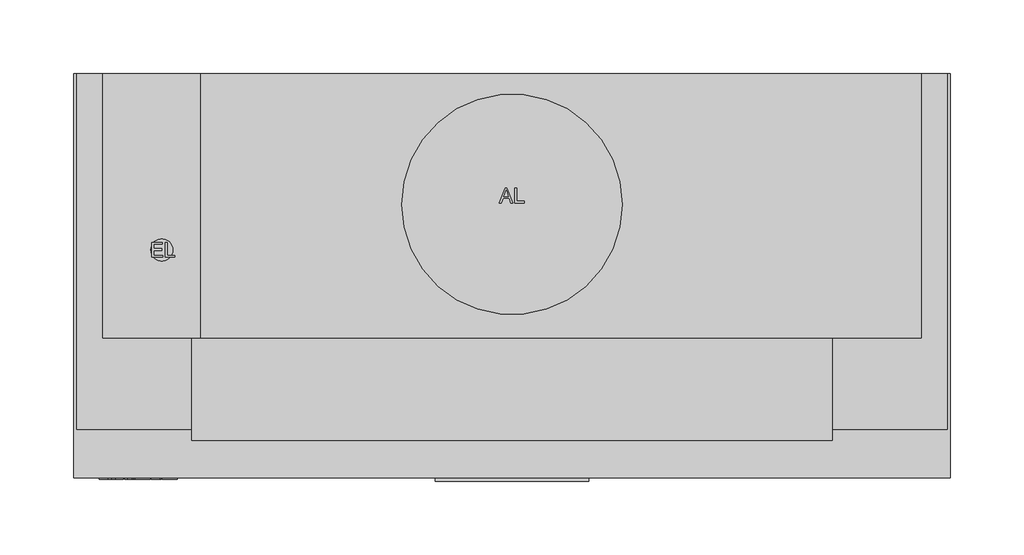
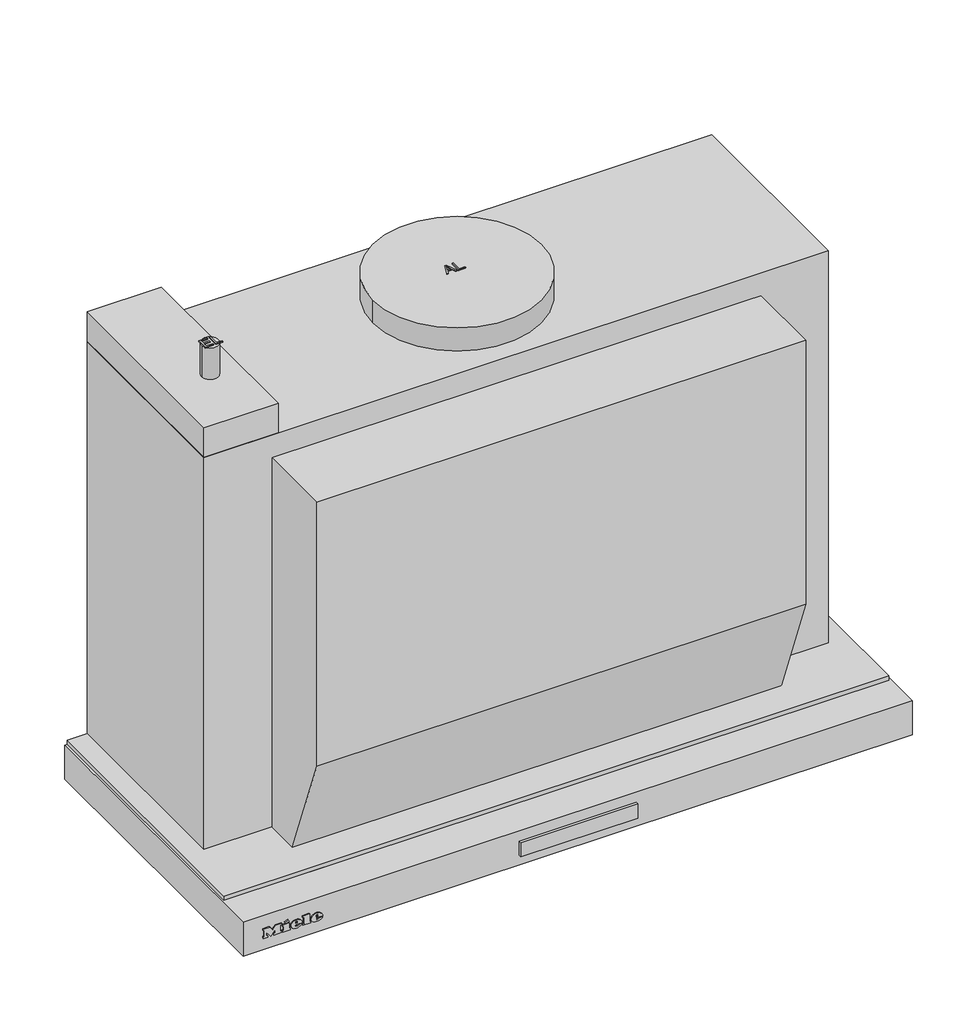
# Not in any storey: 1 proxy.
"""IFC4 building model written with IfcOpenShell, lengths in millimetres."""

import ifcopenshell
import ifcopenshell.guid

model = None  # the IFC model being written
_history = None  # IfcOwnerHistory: only IFC2X3 demands one
_inside = {}  # id of a spatial element -> (the spatial element, [elements in it])
_under = {}  # id of a project, library or spatial element -> (it, [spatial elements below it])
_declared = {}  # id of a project -> (the project, [libraries it declares])
_typed = {}  # id of a type object -> (the type object, [elements of that type])
_made_of = {}  # id of a material, layer set ... -> (it, [elements and type objects made of it])


def new_model(schema):
    """Start an empty IFC model of exactly this schema.

    Asked for "IFC4X3", IfcOpenShell would pick the latest addendum, in which some entities
    have other attributes; the version numbers below select the first issue.
    IFC2X3 requires an IfcOwnerHistory on every rooted entity: one is made here for all.
    """
    global model, _history
    if schema == "IFC4X3":
        model = ifcopenshell.file(schema_version=(4, 3, 0, 0))
    else:
        model = ifcopenshell.file(schema=schema)
    _inside.clear()
    _under.clear()
    _declared.clear()
    _typed.clear()
    _made_of.clear()
    _history = None
    if model.schema == "IFC2X3":
        org = make("IfcOrganization", Name="unknown")
        user = make(
            "IfcPersonAndOrganization",
            ThePerson=make("IfcPerson", FamilyName="unknown"),
            TheOrganization=org,
        )
        app = make(
            "IfcApplication",
            ApplicationDeveloper=org,
            Version="unknown",
            ApplicationFullName="unknown",
            ApplicationIdentifier="unknown",
        )
        _history = make(
            "IfcOwnerHistory",
            OwningUser=user,
            OwningApplication=app,
            ChangeAction="ADDED",
            CreationDate=0,
        )
    return model


def make(cls, **values):
    """One entity of the class cls with the attributes given. An attribute that is None is left unset."""
    return model.create_entity(
        cls, **{name: value for name, value in values.items() if value is not None}
    )


def rooted(cls, **values):
    """An entity with a GlobalId (a new one), such as an element, a storey or a relation."""
    return make(cls, GlobalId=ifcopenshell.guid.new(), OwnerHistory=_history, **values)


def si_unit(unit_type, name, prefix=None):
    """IfcSIUnit, for example si_unit("LENGTHUNIT", "METRE", prefix="MILLI")."""
    return make("IfcSIUnit", UnitType=unit_type, Prefix=prefix, Name=name)


def assignment(units):
    """IfcUnitAssignment: the units of a project."""
    return None if units is None else make("IfcUnitAssignment", Units=units)


def point(xyz):
    """IfcCartesianPoint."""
    return None if xyz is None else make("IfcCartesianPoint", Coordinates=xyz)


def direction(xyz):
    """IfcDirection."""
    return None if xyz is None else make("IfcDirection", DirectionRatios=xyz)


def frame(location, z_axis=None, x_axis=None):
    """IfcAxis2Placement3D, a coordinate frame: its origin and axes. An axis left out is left unset."""
    return make(
        "IfcAxis2Placement3D",
        Location=point(location),
        Axis=direction(z_axis),
        RefDirection=direction(x_axis),
    )


def frame_2d(location, x_axis=None):
    """IfcAxis2Placement2D, a coordinate frame in the plane: its origin and x axis."""
    return make(
        "IfcAxis2Placement2D", Location=point(location), RefDirection=direction(x_axis)
    )


def origin():
    """The frame at (0, 0, 0) with its axes left unset."""
    return frame((0.0, 0.0, 0.0))


def origin_with_axes():
    """The frame at (0, 0, 0) with the z axis (0, 0, 1) and the x axis (1, 0, 0) written out."""
    return frame((0.0, 0.0, 0.0), z_axis=(0.0, 0.0, 1.0), x_axis=(1.0, 0.0, 0.0))


def place(relative_to, where):
    """IfcLocalPlacement: puts the frame where relative to a parent placement (None: the world)."""
    return make(
        "IfcLocalPlacement", PlacementRelTo=relative_to, RelativePlacement=where
    )


def context(
    kind, dimensions, precision=None, world=None, true_north=None, identifier=None
):
    """IfcGeometricRepresentationContext, for example the 3D "Model" context."""
    return make(
        "IfcGeometricRepresentationContext",
        ContextIdentifier=identifier,
        ContextType=kind,
        CoordinateSpaceDimension=dimensions,
        Precision=precision,
        WorldCoordinateSystem=world,
        TrueNorth=true_north,
    )


def project(units=None, contexts=None):
    """IfcProject with its units and contexts."""
    return rooted(
        "IfcProject",
        Name="project",
        RepresentationContexts=contexts,
        UnitsInContext=assignment(units),
    )


def spatial(cls, under=None, at=None, **own):
    """A site, building, storey or space (cls), placed at a placement, below another one or the project."""
    s = rooted(cls, ObjectPlacement=at, **own)
    if under is not None:
        _under.setdefault(under.id(), (under, []))[1].append(s)
    return s


def polyline(points):
    """IfcPolyline through the points."""
    return make("IfcPolyline", Points=[point(p) for p in points])


def circle_curve(where, radius):
    """IfcCircle in the frame where."""
    return make("IfcCircle", Position=where, Radius=radius)


def ellipse_curve(where, semi_axis1, semi_axis2):
    """IfcEllipse in the frame where."""
    return make(
        "IfcEllipse", Position=where, SemiAxis1=semi_axis1, SemiAxis2=semi_axis2
    )


def trimmed(basis, trim1, trim2, sense, master):
    """IfcTrimmedCurve: the piece of a basis curve between two trims."""
    return make(
        "IfcTrimmedCurve",
        BasisCurve=basis,
        Trim1=trim1,
        Trim2=trim2,
        SenseAgreement=sense,
        MasterRepresentation=master,
    )


def segment(curve, same_sense, transition):
    """IfcCompositeCurveSegment."""
    return make(
        "IfcCompositeCurveSegment",
        Transition=transition,
        SameSense=same_sense,
        ParentCurve=curve,
    )


def composite_curve(segments, self_intersect=None):
    """IfcCompositeCurve: segments joined end to end."""
    return make("IfcCompositeCurve", Segments=segments, SelfIntersect=self_intersect)


def outline(outer, holes=None, kind="AREA"):
    """IfcArbitraryClosedProfileDef: a profile drawn as a closed curve; with holes, ...WithVoids."""
    if holes is None:
        return make("IfcArbitraryClosedProfileDef", ProfileType=kind, OuterCurve=outer)
    return make(
        "IfcArbitraryProfileDefWithVoids",
        ProfileType=kind,
        OuterCurve=outer,
        InnerCurves=holes,
    )


def extrude(swept, where, along, depth):
    """IfcExtrudedAreaSolid: the profile swept, set in the frame where, extruded along a direction by depth."""
    return make(
        "IfcExtrudedAreaSolid",
        SweptArea=swept,
        Position=where,
        ExtrudedDirection=direction(along),
        Depth=depth,
    )


def faces_of(points, faces, orient=None, outer=None):
    """IfcFace entities. A face is a list of loops; a loop is a list of indices into points, from 0.

    orient and outer hold one flag for each loop. By default every Orientation is true, the
    first loop of a face is its IfcFaceOuterBound and the others are IfcFaceBound.
    """
    made = []
    for i, loops in enumerate(faces):
        bounds = []
        for j, loop in enumerate(loops):
            is_outer = j == 0 if outer is None else outer[i][j]
            bounds.append(
                make(
                    "IfcFaceOuterBound" if is_outer else "IfcFaceBound",
                    Bound=make("IfcPolyLoop", Polygon=[points[k] for k in loop]),
                    Orientation=True if orient is None else orient[i][j],
                )
            )
        made.append(make("IfcFace", Bounds=bounds))
    return made


def faceted_brep(points, faces, orient=None, outer=None, voids=None):
    """IfcFacetedBrep: a solid bounded by flat faces; with voids (closed shells), ...WithVoids."""
    shared = [point(p) for p in points]
    hull = make("IfcClosedShell", CfsFaces=faces_of(shared, faces, orient, outer))
    if voids is None:
        return make("IfcFacetedBrep", Outer=hull)
    return make(
        "IfcFacetedBrepWithVoids",
        Outer=hull,
        Voids=[
            make(cls, CfsFaces=faces_of(shared, fs, o, b)) for cls, fs, o, b in voids
        ],
    )


def shape(context_of_items, identifier, shape_type, items):
    """IfcShapeRepresentation: the items that make up one representation, for example the "Body"."""
    return make(
        "IfcShapeRepresentation",
        ContextOfItems=context_of_items,
        RepresentationIdentifier=identifier,
        RepresentationType=shape_type,
        Items=items,
    )


def source(mapping_origin, context_of_items, identifier, shape_type, items):
    """IfcRepresentationMap: a shape defined once, which mapped items show again and again."""
    return make(
        "IfcRepresentationMap",
        MappingOrigin=mapping_origin,
        MappedRepresentation=shape(context_of_items, identifier, shape_type, items),
    )


def transform(
    local_origin,
    x_axis=None,
    y_axis=None,
    z_axis=None,
    scale=None,
    scale2=None,
    scale3=None,
    uniform=True,
):
    """IfcCartesianTransformationOperator3D, or its non-uniform kind. x_axis, y_axis, z_axis: its Axis1, 2, 3."""
    if uniform:
        return make(
            "IfcCartesianTransformationOperator3D",
            Axis1=direction(x_axis),
            Axis2=direction(y_axis),
            LocalOrigin=point(local_origin),
            Scale=scale,
            Axis3=direction(z_axis),
        )
    return make(
        "IfcCartesianTransformationOperator3DnonUniform",
        Axis1=direction(x_axis),
        Axis2=direction(y_axis),
        LocalOrigin=point(local_origin),
        Scale=scale,
        Axis3=direction(z_axis),
        Scale2=scale2,
        Scale3=scale3,
    )


def mapped(mapping_source, mapping_target):
    """IfcMappedItem: shows the shape of a source again, moved by a transform."""
    return make(
        "IfcMappedItem", MappingSource=mapping_source, MappingTarget=mapping_target
    )


def made_of(thing, what):
    """Note that an element or type object is made of a material, layer set ...; save() writes the relation."""
    if what is not None:
        _made_of.setdefault(what.id(), (what, []))[1].append(thing)
    return thing


def element(
    cls,
    number,
    at=None,
    inside=None,
    cuts=None,
    type_object=None,
    material=None,
    context=None,
    identifier="Body",
    shape_type=None,
    held_by="IfcProductDefinitionShape",
    body=None,
    shapes=None,
    **own,
):
    """One element of the class cls, such as IfcWall. Its Tag is "e" and its number.

    at: its placement. inside: the storey or other place that contains it. cuts: it is an
    opening in that element (IfcRelVoidsElement). A single representation is given by context,
    identifier, shape_type and body (its items); several are given by shapes. held_by: the class
    of the entity that holds the representations. save() writes the other relations.
    """
    e = rooted(cls, Tag="e%d" % number, ObjectPlacement=at, **own)
    if body is not None:
        shapes = [shape(context, identifier, shape_type, body)]
    if shapes is not None:
        e.Representation = make(held_by, Representations=shapes)
    if inside is not None:
        _inside.setdefault(inside.id(), (inside, []))[1].append(e)
    if cuts is not None:
        rooted(
            "IfcRelVoidsElement", RelatingBuildingElement=cuts, RelatedOpeningElement=e
        )
    if type_object is not None:
        _typed.setdefault(type_object.id(), (type_object, []))[1].append(e)
    return made_of(e, material)


def aggregate(whole, parts):
    """IfcRelAggregates: a whole, such as a stair, and the parts it consists of."""
    return rooted("IfcRelAggregates", RelatingObject=whole, RelatedObjects=parts)


def save(model, path):
    """Write the relations noted so far, then the file.

    IfcRelAggregates (storeys below a building ...), IfcRelContainedInSpatialStructure (elements
    in a storey), IfcRelDefinesByType, IfcRelAssociatesMaterial and IfcRelDeclares: one each for
    every whole, place, type object, material and project.
    """
    for whole, parts in _under.values():
        aggregate(whole, parts)
    for where, things in _inside.values():
        rooted(
            "IfcRelContainedInSpatialStructure",
            RelatedElements=things,
            RelatingStructure=where,
        )
    for kind, things in _typed.values():
        rooted("IfcRelDefinesByType", RelatedObjects=things, RelatingType=kind)
    for what, things in _made_of.values():
        rooted("IfcRelAssociatesMaterial", RelatedObjects=things, RelatingMaterial=what)
    for by, libraries in _declared.values():
        rooted("IfcRelDeclares", RelatingContext=by, RelatedDefinitions=libraries)
    model.write(path)


def plane_surface(at):
    """IfcPlane: the flat surface through the origin of the frame at, square to its z axis."""
    return make("IfcPlane", Position=at)


def cylinder_surface(at, radius):
    """IfcCylindricalSurface: all points at the distance radius from the z axis of the frame at."""
    return make("IfcCylindricalSurface", Position=at, Radius=radius)


def revolved_surface(curve, axis_point, axis_direction):
    """IfcSurfaceOfRevolution: the curve turned about the line through axis_point along axis_direction."""
    return make(
        "IfcSurfaceOfRevolution",
        SweptCurve=make("IfcArbitraryOpenProfileDef", ProfileType="CURVE", Curve=curve),
        AxisPosition=make("IfcAxis1Placement", Location=point(axis_point), Axis=direction(axis_direction)),
    )


def extruded_surface(curve, direction_of_extrusion, depth):
    """IfcSurfaceOfLinearExtrusion: the curve pushed along a direction by depth."""
    return make(
        "IfcSurfaceOfLinearExtrusion",
        SweptCurve=make("IfcArbitraryOpenProfileDef", ProfileType="CURVE", Curve=curve),
        ExtrudedDirection=direction(direction_of_extrusion),
        Depth=depth,
    )


def advanced_brep(points, edges, surfaces, faces):
    """IfcAdvancedBrep: a solid bounded by faces that lie on surfaces and meet in shared edges.

    An edge is (start, end): straight between two places in points (the first is 0);
    or (start, end, curve); or (start, end, curve, False) where it runs against its curve.
    A face is (place in surfaces, loops), or (place, loops, False) where it looks against
    its surface's normal. A loop lists edges by number (the first is 1), with a minus sign
    where the edge is run from its end to its start. The first loop is the outer one.
    """
    corners = [point(p) for p in points]
    vertices = [make("IfcVertexPoint", VertexGeometry=c) for c in corners]
    made = []
    for start, end, *more in edges:
        made.append(
            make(
                "IfcEdgeCurve",
                EdgeStart=vertices[start],
                EdgeEnd=vertices[end],
                EdgeGeometry=more[0] if more else make("IfcPolyline", Points=[corners[start], corners[end]]),
                SameSense=more[1] if len(more) > 1 else True,
            )
        )
    hull = []
    for where, loops, *sense in faces:
        bounds = []
        for j, loop in enumerate(loops):
            ring = [make("IfcOrientedEdge", EdgeElement=made[abs(k) - 1], Orientation=k > 0) for k in loop]
            bounds.append(
                make(
                    "IfcFaceOuterBound" if j == 0 else "IfcFaceBound",
                    Bound=make("IfcEdgeLoop", EdgeList=ring),
                    Orientation=True,
                )
            )
        hull.append(make("IfcAdvancedFace", Bounds=bounds, FaceSurface=surfaces[where], SameSense=sense[0] if sense else True))
    return make("IfcAdvancedBrep", Outer=make("IfcClosedShell", CfsFaces=hull))


def specialty_equipment_4cb3f687(model_context):
    return source(origin(), model_context, "Body", "SolidModel", [
        extrude(outline(polyline([(52.0, -275.0), (52.0, -277.3978707), (-52.0, -277.3978707), (-52.0, -275.0), (52.0, -275.0)])), frame((0.0, 0.0, -23.0389651), z_axis=(0.0, 0.0, 1.0), x_axis=(1.0, 0.0, 0.0)), (0.0, 0.0, 1.0), 13.3389155),
        advanced_brep(
        [(-233.4590019, -276.0, -18.7681017), (-233.4590019, -276.0, -17.8894017), (-227.6387019, -276.0, -17.8894017), (-237.7655019, -276.0, -17.8894017), (-235.3730019, -276.0, -20.8300017), (-227.7866019, -276.0, -18.7681017), (-230.4140019, -276.0, -18.7681017), (-232.4846019, -276.0, -19.7425017), (-233.4590019, -276.0, -16.7758017), (-233.4590019, -276.0, -15.8275017), (-231.9713019, -276.0, -15.8275017), (-231.9713019, -276.0, -16.7758017), (-233.4590019, -275.0, -18.7681017), (-232.4846019, -275.0, -19.7425017), (-230.4140019, -275.0, -18.7681017), (-227.7866019, -275.0, -18.7681017), (-235.3730019, -275.0, -20.8300017), (-237.7655019, -275.0, -17.8894017), (-227.6387019, -275.0, -17.8894017), (-233.4590019, -275.0, -17.8894017), (-233.4590019, -275.0, -16.7758017), (-231.9713019, -275.0, -16.7758017), (-231.9713019, -275.0, -15.8275017), (-233.4590019, -275.0, -15.8275017)],
        [
            (0, 1),
            (1, 2),
            (2, 3, ellipse_curve(frame((-232.7021019, -276.0, -17.8894017), z_axis=(0.0, -1.0, 0.0), x_axis=(-1.0, 0.0, 0.0)), 5.0634, 4.1847)),
            (3, 4, circle_curve(frame((-234.3985544, -276.0, -17.5936017), z_axis=(0.0, -1.0, 0.0), x_axis=(0.0, 0.0, -1.0)), 3.3799161)),
            (4, 5, circle_curve(frame((-232.8034638, -276.0, -15.2968017), z_axis=(0.0, -1.0, 0.0), x_axis=(0.0, 0.0, -1.0)), 6.1007236)),
            (5, 6),
            (6, 7, circle_curve(frame((-232.0593254, -276.0, -17.9590017), z_axis=(0.0, 1.0, 0.0), x_axis=(0.0, 0.0, -1.0)), 1.8335027)),
            (7, 0, circle_curve(frame((-232.4846019, -276.0, -18.7681017), z_axis=(0.0, 1.0, 0.0), x_axis=(0.0, 0.0, -1.0)), 0.9744)),
            (8, 9),
            (9, 10, circle_curve(frame((-232.7151519, -276.0, -15.8275017), z_axis=(0.0, 1.0, 0.0), x_axis=(0.0, 0.0, -1.0)), 0.74385)),
            (10, 11),
            (11, 8),
            (12, 13, circle_curve(frame((-232.4846019, -275.0, -18.7681017), z_axis=(0.0, -1.0, 0.0), x_axis=(0.0, 0.0, -1.0)), 0.9744)),
            (13, 14, circle_curve(frame((-232.0593254, -275.0, -17.9590017), z_axis=(0.0, -1.0, 0.0), x_axis=(0.0, 0.0, -1.0)), 1.8335027)),
            (14, 15),
            (15, 16, circle_curve(frame((-232.8034638, -275.0, -15.2968017), z_axis=(0.0, 1.0, 0.0), x_axis=(0.0, 0.0, -1.0)), 6.1007236)),
            (16, 17, circle_curve(frame((-234.3985544, -275.0, -17.5936017), z_axis=(0.0, 1.0, 0.0), x_axis=(0.0, 0.0, -1.0)), 3.3799161)),
            (17, 18, ellipse_curve(frame((-232.7021019, -275.0, -17.8894017), z_axis=(0.0, 1.0, 0.0), x_axis=(-1.0, 0.0, 0.0)), 5.0634, 4.1847)),
            (18, 19),
            (19, 12),
            (20, 21),
            (21, 22),
            (22, 23, circle_curve(frame((-232.7151519, -275.0, -15.8275017), z_axis=(0.0, -1.0, 0.0), x_axis=(0.0, 0.0, -1.0)), 0.74385)),
            (23, 20),
            (0, 12),
            (19, 1),
            (18, 2),
            (5, 15),
            (14, 6),
            (17, 3),
            (13, 7),
            (16, 4),
            (8, 20),
            (23, 9),
            (22, 10),
            (21, 11),
        ],
        [
            plane_surface(frame((-233.4590019, -276.0, -17.8894017), z_axis=(0.0, -1.0, 0.0), x_axis=(0.0, 0.0, 1.0))),
            plane_surface(frame((-233.4590019, -275.0, -17.8894017), z_axis=(0.0, 1.0, 0.0), x_axis=(0.0, 0.0, -1.0))),
            plane_surface(frame((-233.4590019, -276.0, -18.7681017), z_axis=(1.0, 0.0, 0.0), x_axis=(0.0, 1.0, 0.0))),
            plane_surface(frame((-233.4590019, -276.0, -17.8894017), z_axis=(0.0, 0.0, -1.0), x_axis=(0.0, 1.0, 0.0))),
            plane_surface(frame((-227.7866019, -276.0, -18.7681017), z_axis=(0.0, 0.0, 1.0), x_axis=(0.0, 1.0, 0.0))),
            extruded_surface(trimmed(ellipse_curve(frame((-232.7021019, -274.0, -17.8894017), z_axis=(0.0, -1.0, 0.0), x_axis=(-1.0, 0.0, 0.0)), 5.0634, 4.1847), [point((-227.6387019, -274.0, -17.8894017))], [point((-237.7655019, -274.0, -17.8894017))], True, "CARTESIAN"), (0.0, -1.0, 0.0), 1.0),
            revolved_surface(polyline([(-232.0593254, -275.0, -19.792504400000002), (-232.0593254, -276.0, -19.792504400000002)]), (-232.0593254, -275.0, -17.9590017), (0.0, 1.0, 0.0)),
            revolved_surface(polyline([(-232.4846019, -275.0, -19.7425017), (-232.4846019, -276.0, -19.7425017)]), (-232.4846019, -275.0, -18.7681017), (0.0, 1.0, 0.0)),
            cylinder_surface(frame((-234.3985544, -275.0, -17.5936017), z_axis=(0.0, -1.0, 0.0), x_axis=(0.0, 0.0, -1.0)), 3.3799161),
            cylinder_surface(frame((-232.8034638, -275.0, -15.2968017), z_axis=(0.0, -1.0, 0.0), x_axis=(0.0, 0.0, -1.0)), 6.1007236),
            plane_surface(frame((-233.4590019, -276.0, -16.7758017), z_axis=(1.0, 0.0, 0.0), x_axis=(0.0, 1.0, 0.0))),
            revolved_surface(polyline([(-232.7151519, -275.0, -16.571351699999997), (-232.7151519, -276.0, -16.571351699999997)]), (-232.7151519, -275.0, -15.8275017), (0.0, 1.0, 0.0)),
            plane_surface(frame((-231.9713019, -276.0, -15.8275017), z_axis=(-1.0, 0.0, 0.0), x_axis=(0.0, 1.0, 0.0))),
            plane_surface(frame((-231.9713019, -276.0, -16.7758017), z_axis=(0.0, 0.0, 1.0), x_axis=(0.0, 1.0, 0.0))),
        ],
        [
            (0, [[1, 2, 3, 4, 5, 6, 7, 8], [9, 10, 11, 12]]),
            (1, [[13, 14, 15, 16, 17, 18, 19, 20], [21, 22, 23, 24]]),
            (2, [[-1, 25, -20, 26]]),
            (3, [[-2, -26, -19, 27]]),
            (4, [[-6, 28, -15, 29]]),
            (5, [[-3, -27, -18, 30]]),
            (6, [[-7, -29, -14, 31]]),
            (7, [[-8, -31, -13, -25]]),
            (8, [[-4, -30, -17, 32]]),
            (9, [[-5, -32, -16, -28]]),
            (10, [[-9, 33, -24, 34]]),
            (11, [[-10, -34, -23, 35]]),
            (12, [[-11, -35, -22, 36]]),
            (13, [[-12, -36, -21, -33]]),
        ],
    ),
        advanced_brep(
        [(-251.6159019, -276.0, -18.7681017), (-251.6159019, -276.0, -17.8894017), (-245.7956019, -276.0, -17.8894017), (-255.9224019, -276.0, -17.8894017), (-253.5299019, -276.0, -20.8300017), (-245.9435019, -276.0, -18.7681017), (-248.5709019, -276.0, -18.7681017), (-250.6415019, -276.0, -19.7425017), (-251.6159019, -276.0, -16.7758017), (-251.6159019, -276.0, -15.8275017), (-250.1282019, -276.0, -15.8275017), (-250.1282019, -276.0, -16.7758017), (-251.6159019, -275.0, -18.7681017), (-250.6415019, -275.0, -19.7425017), (-248.5709019, -275.0, -18.7681017), (-245.9435019, -275.0, -18.7681017), (-253.5299019, -275.0, -20.8300017), (-255.9224019, -275.0, -17.8894017), (-245.7956019, -275.0, -17.8894017), (-251.6159019, -275.0, -17.8894017), (-251.6159019, -275.0, -16.7758017), (-250.1282019, -275.0, -16.7758017), (-250.1282019, -275.0, -15.8275017), (-251.6159019, -275.0, -15.8275017)],
        [
            (0, 1),
            (1, 2),
            (2, 3, ellipse_curve(frame((-250.8590019, -276.0, -17.8894017), z_axis=(0.0, -1.0, 0.0), x_axis=(-1.0, 0.0, 0.0)), 5.0634, 4.1847)),
            (3, 4, circle_curve(frame((-252.5554544, -276.0, -17.5936017), z_axis=(0.0, -1.0, 0.0), x_axis=(0.0, 0.0, -1.0)), 3.3799161)),
            (4, 5, circle_curve(frame((-250.9603638, -276.0, -15.2968017), z_axis=(0.0, -1.0, 0.0), x_axis=(0.0, 0.0, -1.0)), 6.1007236)),
            (5, 6),
            (6, 7, circle_curve(frame((-250.2162254, -276.0, -17.9590017), z_axis=(0.0, 1.0, 0.0), x_axis=(0.0, 0.0, -1.0)), 1.8335027)),
            (7, 0, circle_curve(frame((-250.6415019, -276.0, -18.7681017), z_axis=(0.0, 1.0, 0.0), x_axis=(0.0, 0.0, -1.0)), 0.9744)),
            (8, 9),
            (9, 10, circle_curve(frame((-250.8720519, -276.0, -15.8275017), z_axis=(0.0, 1.0, 0.0), x_axis=(0.0, 0.0, -1.0)), 0.74385)),
            (10, 11),
            (11, 8),
            (12, 13, circle_curve(frame((-250.6415019, -275.0, -18.7681017), z_axis=(0.0, -1.0, 0.0), x_axis=(0.0, 0.0, -1.0)), 0.9744)),
            (13, 14, circle_curve(frame((-250.2162254, -275.0, -17.9590017), z_axis=(0.0, -1.0, 0.0), x_axis=(0.0, 0.0, -1.0)), 1.8335027)),
            (14, 15),
            (15, 16, circle_curve(frame((-250.9603638, -275.0, -15.2968017), z_axis=(0.0, 1.0, 0.0), x_axis=(0.0, 0.0, -1.0)), 6.1007236)),
            (16, 17, circle_curve(frame((-252.5554544, -275.0, -17.5936017), z_axis=(0.0, 1.0, 0.0), x_axis=(0.0, 0.0, -1.0)), 3.3799161)),
            (17, 18, ellipse_curve(frame((-250.8590019, -275.0, -17.8894017), z_axis=(0.0, 1.0, 0.0), x_axis=(-1.0, 0.0, 0.0)), 5.0634, 4.1847)),
            (18, 19),
            (19, 12),
            (20, 21),
            (21, 22),
            (22, 23, circle_curve(frame((-250.8720519, -275.0, -15.8275017), z_axis=(0.0, -1.0, 0.0), x_axis=(0.0, 0.0, -1.0)), 0.74385)),
            (23, 20),
            (0, 12),
            (19, 1),
            (18, 2),
            (5, 15),
            (14, 6),
            (17, 3),
            (13, 7),
            (16, 4),
            (8, 20),
            (23, 9),
            (22, 10),
            (21, 11),
        ],
        [
            plane_surface(frame((-251.6159019, -276.0, -17.8894017), z_axis=(0.0, -1.0, 0.0), x_axis=(0.0, 0.0, 1.0))),
            plane_surface(frame((-251.6159019, -275.0, -17.8894017), z_axis=(0.0, 1.0, 0.0), x_axis=(0.0, 0.0, -1.0))),
            plane_surface(frame((-251.6159019, -276.0, -18.7681017), z_axis=(1.0, 0.0, 0.0), x_axis=(0.0, 1.0, 0.0))),
            plane_surface(frame((-251.6159019, -276.0, -17.8894017), z_axis=(0.0, 0.0, -1.0), x_axis=(0.0, 1.0, 0.0))),
            plane_surface(frame((-245.9435019, -276.0, -18.7681017), z_axis=(0.0, 0.0, 1.0), x_axis=(0.0, 1.0, 0.0))),
            extruded_surface(trimmed(ellipse_curve(frame((-250.8590019, -274.0, -17.8894017), z_axis=(0.0, -1.0, 0.0), x_axis=(-1.0, 0.0, 0.0)), 5.0634, 4.1847), [point((-245.7956019, -274.0, -17.8894017))], [point((-255.9224019, -274.0, -17.8894017))], True, "CARTESIAN"), (0.0, -1.0, 0.0), 1.0),
            revolved_surface(polyline([(-250.2162254, -275.0, -19.792504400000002), (-250.2162254, -276.0, -19.792504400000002)]), (-250.2162254, -275.0, -17.9590017), (0.0, 1.0, 0.0)),
            revolved_surface(polyline([(-250.6415019, -275.0, -19.7425017), (-250.6415019, -276.0, -19.7425017)]), (-250.6415019, -275.0, -18.7681017), (0.0, 1.0, 0.0)),
            cylinder_surface(frame((-252.5554544, -275.0, -17.5936017), z_axis=(0.0, -1.0, 0.0), x_axis=(0.0, 0.0, -1.0)), 3.3799161),
            cylinder_surface(frame((-250.9603638, -275.0, -15.2968017), z_axis=(0.0, -1.0, 0.0), x_axis=(0.0, 0.0, -1.0)), 6.1007236),
            plane_surface(frame((-251.6159019, -276.0, -16.7758017), z_axis=(1.0, 0.0, 0.0), x_axis=(0.0, 1.0, 0.0))),
            revolved_surface(polyline([(-250.8720519, -275.0, -16.571351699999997), (-250.8720519, -276.0, -16.571351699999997)]), (-250.8720519, -275.0, -15.8275017), (0.0, 1.0, 0.0)),
            plane_surface(frame((-250.1282019, -276.0, -15.8275017), z_axis=(-1.0, 0.0, 0.0), x_axis=(0.0, 1.0, 0.0))),
            plane_surface(frame((-250.1282019, -276.0, -16.7758017), z_axis=(0.0, 0.0, 1.0), x_axis=(0.0, 1.0, 0.0))),
        ],
        [
            (0, [[1, 2, 3, 4, 5, 6, 7, 8], [9, 10, 11, 12]]),
            (1, [[13, 14, 15, 16, 17, 18, 19, 20], [21, 22, 23, 24]]),
            (2, [[-1, 25, -20, 26]]),
            (3, [[-2, -26, -19, 27]]),
            (4, [[-6, 28, -15, 29]]),
            (5, [[-3, -27, -18, 30]]),
            (6, [[-7, -29, -14, 31]]),
            (7, [[-8, -31, -13, -25]]),
            (8, [[-4, -30, -17, 32]]),
            (9, [[-5, -32, -16, -28]]),
            (10, [[-9, 33, -24, 34]]),
            (11, [[-10, -34, -23, 35]]),
            (12, [[-11, -35, -22, 36]]),
            (13, [[-12, -36, -21, -33]]),
        ],
    ),
        extrude(outline(polyline([(-12.6433017, -261.1250019), (-14.0527017, -260.4638019), (-12.6781017, -257.5145019), (-11.2687017, -258.1670019), (-12.6433017, -261.1250019)])), frame((0.0, -276.0, 0.0), z_axis=(0.0, 1.0, 0.0), x_axis=(0.0, 0.0, 1.0)), (0.0, 0.0, 1.0), 1.0),
        extrude(outline(polyline([(-14.2441017, -263.2739019), (-15.8014017, -263.2739019), (-15.8014017, -262.2386019), (-19.3684017, -262.2386019), (-19.3684017, -263.2739019), (-20.8300017, -263.2739019), (-20.8300017, -256.4096019), (-19.3684017, -256.4096019), (-19.3684017, -257.4188019), (-14.2441017, -257.4188019), (-14.2441017, -263.2739019)])), frame((0.0, -276.0, 0.0), z_axis=(0.0, 1.0, 0.0), x_axis=(0.0, 0.0, 1.0)), (0.0, 0.0, 1.0), 1.0),
        extrude(outline(polyline([(-13.5481017, -245.3084019), (-13.5481017, -244.2644019), (-19.3684017, -244.2644019), (-19.3684017, -245.3084019), (-20.8300017, -245.3084019), (-20.8300017, -238.2527019), (-19.3684017, -238.2527019), (-19.3684017, -239.3228019), (-12.1300017, -239.3228019), (-12.1300017, -245.3084019), (-13.5481017, -245.3084019)])), frame((0.0, -276.0, 0.0), z_axis=(0.0, 1.0, 0.0), x_axis=(0.0, 0.0, 1.0)), (0.0, 0.0, 1.0), 1.0),
        extrude(outline(polyline([(-13.5481017, -280.6130019), (-13.5481017, -279.5603019), (-19.3684017, -279.5603019), (-19.3684017, -280.6130019), (-20.8300017, -280.6130019), (-20.8300017, -276.7850019), (-19.3684017, -276.7850019), (-19.3684017, -277.8290019), (-15.6719769, -277.8290019), (-20.8300017, -273.9401019), (-15.5772794, -270.0338019), (-19.3684017, -270.0338019), (-19.3684017, -271.1039019), (-20.8300017, -271.1039019), (-20.8300017, -264.1613019), (-19.3684017, -264.1613019), (-19.3684017, -265.2662019), (-13.5481017, -265.2662019), (-13.5481017, -264.1613019), (-12.1300017, -264.1613019), (-12.1300017, -269.4596019), (-15.3925017, -272.0000019), (-12.1300017, -274.5491019), (-12.1300017, -280.6130019), (-13.5481017, -280.6130019)])), frame((0.0, -276.0, 0.0), z_axis=(0.0, 1.0, 0.0), x_axis=(0.0, 0.0, 1.0)), (0.0, 0.0, 1.0), 1.0),
        extrude(outline(polyline([(278.0, -180.0), (-278.0, -180.0), (-278.0, 0.0), (278.0, 0.0), (278.0, -180.0)])), frame((0.0, 0.0, 4.0), z_axis=(0.0, 0.0, 1.0), x_axis=(1.0, 0.0, 0.0)), (0.0, 0.0, 1.0), 369.0),
        extrude(outline(composite_curve([segment(trimmed(circle_curve(frame_2d((0.0, -89.0)), 75.0), [point((-75.0, -89.0))], [point((75.0, -89.0))], False, "CARTESIAN"), True, "CONTINUOUS"), segment(trimmed(circle_curve(frame_2d((0.0, -89.0)), 75.0), [point((75.0, -89.0))], [point((-75.0, -89.0))], False, "CARTESIAN"), True, "CONTINUOUS")], self_intersect=False)), frame((0.0, 0.0, 373.0), z_axis=(0.0, 0.0, 1.0), x_axis=(1.0, 0.0, 0.0)), (0.0, 0.0, 1.0), 22.0),
        extrude(outline(polyline([(-278.0, -180.0), (-278.0, 0.0), (-212.0, 0.0), (-212.0, -180.0), (-278.0, -180.0)])), frame((0.0, 0.0, 373.0), z_axis=(0.0, 0.0, 1.0), x_axis=(1.0, 0.0, 0.0)), (0.0, 0.0, 1.0), 28.0),
        extrude(outline(polyline([(-180.0, 352.0), (-180.0, 4.0), (-211.7966838, 4.0), (-249.5, 103.2192532), (-249.5, 352.0), (-180.0, 352.0)])), frame((-217.7156244, 0.0, 0.0), z_axis=(1.0, 0.0, 0.0), x_axis=(0.0, 1.0, 0.0)), (0.0, 0.0, 1.0), 435.4312488),
        extrude(outline(polyline([(-8.5446725, -87.975609), (-4.5347587, -77.929978), (-3.4654484, -77.929978), (0.5420128, -87.975609), (-0.7848149, -87.975609), (-1.9326067, -84.8363493), (-6.0725055, -84.8363493), (-7.2202973, -87.975609), (-8.5446725, -87.975609)]), holes=[polyline([(-5.6114267, -83.5806455), (-2.391233, -83.5806455), (-3.2986752, -81.110931), (-4.0025561, -79.1856819), (-4.6279555, -80.8951069), (-5.6114267, -83.5806455)])]), frame((0.0, 0.0, 395.0), z_axis=(0.0, 0.0, 1.0), x_axis=(1.0, 0.0, 0.0)), (0.0, 0.0, 1.0), 1.0),
        extrude(outline(polyline([(1.8835558, -87.975609), (1.8835558, -77.929978), (3.1392597, -77.929978), (3.1392597, -86.7199052), (8.1620752, -86.7199052), (8.1620752, -87.975609), (1.8835558, -87.975609)])), frame((0.0, 0.0, 395.0), z_axis=(0.0, 0.0, 1.0), x_axis=(1.0, 0.0, 0.0)), (0.0, 0.0, 1.0), 1.0),
        extrude(outline(polyline([(296.0, 0.0), (296.0, -242.0), (-296.0, -242.0), (-296.0, 0.0), (296.0, 0.0)])), origin_with_axes(), (0.0, 0.0, 1.0), 4.0),
        extrude(outline(polyline([(120.0, -19.25), (120.0, -31.75), (-120.0, -31.75), (-120.0, -19.25), (120.0, -19.25)])), frame((0.0, 0.0, -23.0), z_axis=(0.0, 0.0, 1.0), x_axis=(1.0, 0.0, 0.0)), (0.0, 0.0, 1.0), 1.785426),
        extrude(outline(polyline([(181.0813184, -268.0), (181.0813184, -246.0), (249.0, -246.0), (249.0, -268.0), (181.0813184, -268.0)])), frame((0.0, 0.0, -33.3019181), z_axis=(0.0, 0.0, 1.0), x_axis=(1.0, 0.0, 0.0)), (0.0, 0.0, 1.0), 1.3019181),
        extrude(outline(polyline([(-249.0, -268.0), (-249.0, -246.0), (-181.0, -246.0), (-181.0, -268.0), (-249.0, -268.0)])), frame((0.0, 0.0, -33.3019181), z_axis=(0.0, 0.0, 1.0), x_axis=(1.0, 0.0, 0.0)), (0.0, 0.0, 1.0), 1.3019181),
        extrude(outline(composite_curve([segment(trimmed(circle_curve(frame_2d((-238.0, -120.0)), 7.5), [point((-230.5, -120.0))], [point((-245.5, -120.0))], False, "CARTESIAN"), True, "CONTINUOUS"), segment(trimmed(circle_curve(frame_2d((-238.0, -120.0)), 7.5), [point((-245.5, -120.0))], [point((-230.5, -120.0))], False, "CARTESIAN"), True, "CONTINUOUS")], self_intersect=False)), frame((0.0, 0.0, 401.0), z_axis=(0.0, 0.0, 1.0), x_axis=(1.0, 0.0, 0.0)), (0.0, 0.0, 1.0), 30.0),
        extrude(outline(polyline([(-235.640443, -124.9184735), (-235.640443, -114.8728425), (-234.3847391, -114.8728425), (-234.3847391, -123.6627696), (-229.3619236, -123.6627696), (-229.3619236, -124.9184735), (-235.640443, -124.9184735)])), frame((0.0, 0.0, 431.0), z_axis=(0.0, 0.0, 1.0), x_axis=(1.0, 0.0, 0.0)), (0.0, 0.0, 1.0), 1.0),
        extrude(outline(polyline([(-244.9012591, -124.9184735), (-244.9012591, -114.8728425), (-237.6809618, -114.8728425), (-237.6809618, -116.1285464), (-243.6455552, -116.1285464), (-243.6455552, -119.1108431), (-237.9948878, -119.1108431), (-237.9948878, -120.366547), (-243.6455552, -120.366547), (-243.6455552, -123.6627696), (-237.5239988, -123.6627696), (-237.5239988, -124.9184735), (-244.9012591, -124.9184735)])), frame((0.0, 0.0, 431.0), z_axis=(0.0, 0.0, 1.0), x_axis=(1.0, 0.0, 0.0)), (0.0, 0.0, 1.0), 1.0),
        extrude(outline(polyline([(-298.0, 0.0), (-263.0, 0.0), (-263.0, -242.0), (263.0, -242.0), (263.0, 0.0), (298.0, 0.0), (298.0, -275.0), (-298.0, -275.0), (-298.0, 0.0)])), frame((0.0, 0.0, -32.0), z_axis=(0.0, 0.0, 1.0), x_axis=(1.0, 0.0, 0.0)), (0.0, 0.0, 1.0), 32.0),
        faceted_brep([(-126.0, -39.0, -24.0), (-126.0, -39.0, 0.0), (126.0, -39.0, 0.0), (126.0, -39.0, -24.0), (-126.0, -12.0, -24.0), (-126.0, -12.0, 0.0), (126.0, -12.0, -24.0), (126.0, -12.0, 0.0), (-263.0, -242.0, 0.0), (-263.0, 0.0, 0.0), (-263.0, 0.0, -24.0), (-263.0, -52.0, -24.0), (-263.0, -52.0, -25.0), (-263.0, -242.0, -25.0), (263.0, -52.0, -25.0), (263.0, -242.0, -25.0), (263.0, -52.0, -24.0), (263.0, 0.0, -24.0), (263.0, 0.0, 0.0), (263.0, -242.0, 0.0)], [[[0, 1, 2, 3]], [[4, 5, 1, 0]], [[6, 7, 5, 4]], [[8, 9, 10, 11, 12, 13]], [[13, 12, 14, 15]], [[16, 11, 10, 17], [6, 4, 0, 3]], [[11, 16, 14, 12]], [[18, 9, 8, 19], [5, 7, 2, 1]], [[9, 18, 17, 10]], [[19, 8, 13, 15]], [[18, 19, 15, 14, 16, 17]], [[7, 6, 3, 2]]]),
        extrude(outline(polyline([(126.0, -12.0), (126.0, -39.0), (-126.0, -39.0), (-126.0, -12.0), (126.0, -12.0)]), holes=[polyline([(120.0, -19.25), (-120.0, -19.25), (-120.0, -31.75), (120.0, -31.75), (120.0, -19.25)])]), frame((0.0, 0.0, -21.214574), z_axis=(0.0, 0.0, 1.0), x_axis=(1.0, 0.0, 0.0)), (0.0, 0.0, 1.0), 21.214574),
    ])


model = new_model("IFC4")

# Units and contexts
model_context = context("Model", 3, world=origin())
ifc_project = project(units=[si_unit("LENGTHUNIT", "METRE", prefix="MILLI")], contexts=[model_context])

# Site, building
site = spatial("IfcSite", under=ifc_project)
building = spatial("IfcBuilding", under=site)

# Proxy
placement = place(None, origin())
specialty_equipment_shape = specialty_equipment_4cb3f687(model_context)
element("IfcBuildingElementProxy", 1, Name="11878390_PAC_DAS2620_EDST : 28S2620S_PAC_11878390_DAS2620_EDST", ObjectType="11878390_PAC_DAS2620_EDST : 28S2620S_PAC_11878390_DAS2620_EDST", at=placement, inside=building, context=model_context, shape_type="MappedRepresentation", body=[
    mapped(specialty_equipment_shape, transform((0.0, 0.0, 0.0), x_axis=(1.0, 0.0, 0.0), y_axis=(0.0, 1.0, 0.0), z_axis=(0.0, 0.0, 1.0))),
])

save(model, "model.ifc")
